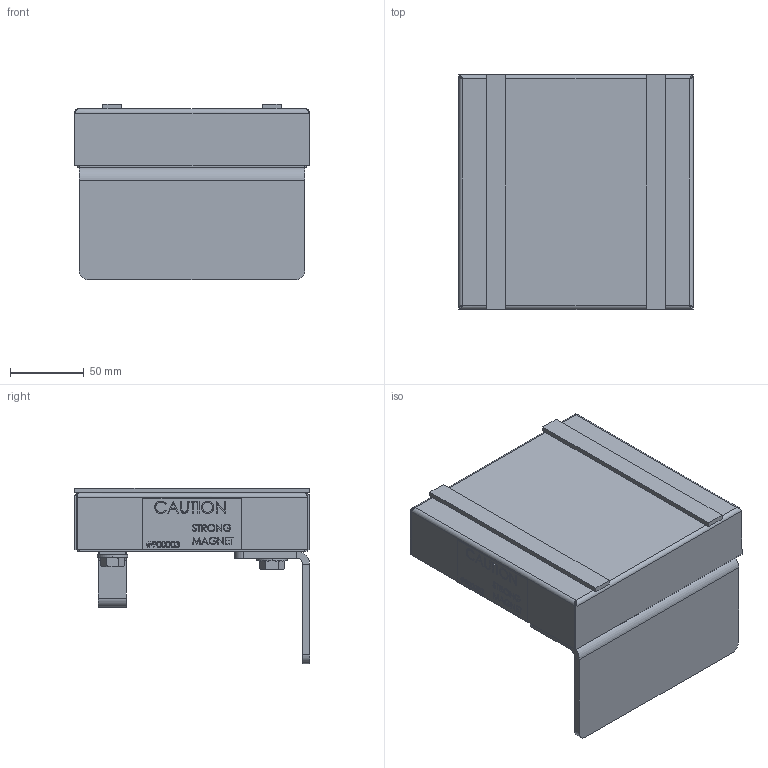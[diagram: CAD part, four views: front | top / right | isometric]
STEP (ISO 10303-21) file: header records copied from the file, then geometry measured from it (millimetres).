
FILE_DESCRIPTION (( 'STEP AP203' ), '1' );
FILE_NAME ('TNF06.STEP', '2017-09-29T12:33:52', ( 'admin' ), ( '' ), 'SwSTEP 2.0', 'SolidWorks 2015', '' );
FILE_SCHEMA (( 'CONFIG_CONTROL_DESIGN' ));
Products named in the file (1): TNF06
Bounding box: 159.26 x 159 x 118.75 mm (x, y, z)
Volume: 1071305.6 mm3; surface area: 300961.4 mm2
Topology: 19 solids, 19 shells, 1683 faces, 4181 edges, 2678 vertices
Faces by surface type: plane 908, bspline 427, cone 176, cylinder 164, torus 8
Entity records: 76514 total; most frequent: CARTESIAN_POINT 39288, ORIENTED_EDGE 8362, DIRECTION 6165, EDGE_CURVE 4181, VECTOR 2787, LINE 2787, VERTEX_POINT 2678, EDGE_LOOP 1849
